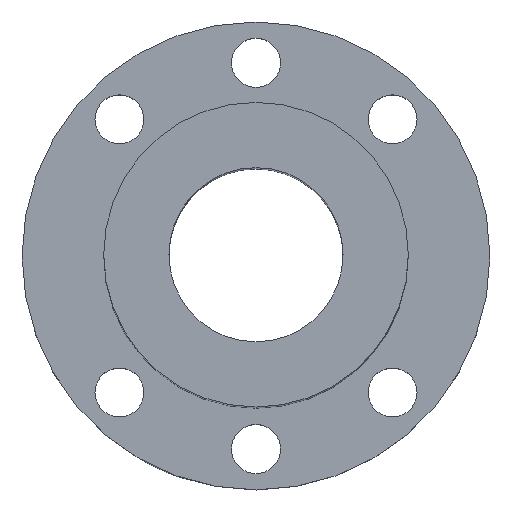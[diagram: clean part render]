
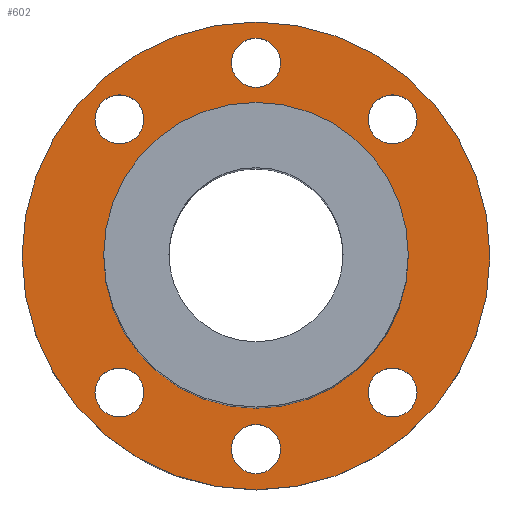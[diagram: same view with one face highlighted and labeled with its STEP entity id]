
A CAD part, top view. The second image highlights one B-rep face of the part: STEP entity #602.
In plain terms, the highlighted planar face has unit normal (0, 0, 1).
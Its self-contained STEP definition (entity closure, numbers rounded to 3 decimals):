
#101=CARTESIAN_POINT('',(0.,0.,14.));
#102=DIRECTION('',(0.,0.,1.));
#103=DIRECTION('',(1.,0.,0.));
#104=AXIS2_PLACEMENT_3D('',#101,#102,#103);
#106=CARTESIAN_POINT('',(0.,0.,14.));
#107=DIRECTION('',(0.,0.,1.));
#108=DIRECTION('',(-1.,0.,0.));
#109=AXIS2_PLACEMENT_3D('',#106,#107,#108);
#111=CARTESIAN_POINT('',(-25.102,-25.102,14.));
#112=DIRECTION('',(0.,0.,-1.));
#113=DIRECTION('',(1.,0.,0.));
#114=AXIS2_PLACEMENT_3D('',#111,#112,#113);
#116=CARTESIAN_POINT('',(-25.102,-25.102,14.));
#117=DIRECTION('',(0.,0.,-1.));
#118=DIRECTION('',(-1.,0.,0.));
#119=AXIS2_PLACEMENT_3D('',#116,#117,#118);
#121=CARTESIAN_POINT('',(0.,0.,14.));
#122=DIRECTION('',(0.,0.,-1.));
#123=DIRECTION('',(1.,0.,0.));
#124=AXIS2_PLACEMENT_3D('',#121,#122,#123);
#126=CARTESIAN_POINT('',(0.,0.,14.));
#127=DIRECTION('',(0.,0.,-1.));
#128=DIRECTION('',(-1.,0.,0.));
#129=AXIS2_PLACEMENT_3D('',#126,#127,#128);
#131=CARTESIAN_POINT('',(0.,35.5,14.));
#132=DIRECTION('',(0.,0.,-1.));
#133=DIRECTION('',(1.,0.,0.));
#134=AXIS2_PLACEMENT_3D('',#131,#132,#133);
#136=CARTESIAN_POINT('',(0.,35.5,14.));
#137=DIRECTION('',(0.,0.,-1.));
#138=DIRECTION('',(-1.,0.,0.));
#139=AXIS2_PLACEMENT_3D('',#136,#137,#138);
#141=CARTESIAN_POINT('',(-25.102,25.102,14.));
#142=DIRECTION('',(0.,0.,-1.));
#143=DIRECTION('',(1.,0.,0.));
#144=AXIS2_PLACEMENT_3D('',#141,#142,#143);
#146=CARTESIAN_POINT('',(-25.102,25.102,14.));
#147=DIRECTION('',(0.,0.,-1.));
#148=DIRECTION('',(-1.,0.,0.));
#149=AXIS2_PLACEMENT_3D('',#146,#147,#148);
#151=CARTESIAN_POINT('',(25.102,-25.102,14.));
#152=DIRECTION('',(0.,0.,-1.));
#153=DIRECTION('',(-1.,0.,0.));
#154=AXIS2_PLACEMENT_3D('',#151,#152,#153);
#156=CARTESIAN_POINT('',(25.102,-25.102,14.));
#157=DIRECTION('',(0.,0.,-1.));
#158=DIRECTION('',(1.,0.,0.));
#159=AXIS2_PLACEMENT_3D('',#156,#157,#158);
#161=CARTESIAN_POINT('',(25.102,25.102,14.));
#162=DIRECTION('',(0.,0.,-1.));
#163=DIRECTION('',(-1.,0.,0.));
#164=AXIS2_PLACEMENT_3D('',#161,#162,#163);
#166=CARTESIAN_POINT('',(25.102,25.102,14.));
#167=DIRECTION('',(0.,0.,-1.));
#168=DIRECTION('',(1.,0.,0.));
#169=AXIS2_PLACEMENT_3D('',#166,#167,#168);
#171=CARTESIAN_POINT('',(0.,-35.5,14.));
#172=DIRECTION('',(0.,0.,-1.));
#173=DIRECTION('',(1.,0.,0.));
#174=AXIS2_PLACEMENT_3D('',#171,#172,#173);
#176=CARTESIAN_POINT('',(0.,-35.5,14.));
#177=DIRECTION('',(0.,0.,-1.));
#178=DIRECTION('',(-1.,0.,0.));
#179=AXIS2_PLACEMENT_3D('',#176,#177,#178);
#347=CARTESIAN_POINT('',(43.,0.,14.));
#349=VERTEX_POINT('',#347);
#351=CARTESIAN_POINT('',(-43.,0.,14.));
#353=VERTEX_POINT('',#351);
#355=CARTESIAN_POINT('',(-28.,0.,14.));
#356=CARTESIAN_POINT('',(28.,0.,14.));
#357=VERTEX_POINT('',#355);
#358=VERTEX_POINT('',#356);
#363=CARTESIAN_POINT('',(29.602,25.102,14.));
#365=VERTEX_POINT('',#363);
#367=CARTESIAN_POINT('',(20.602,25.102,14.));
#369=VERTEX_POINT('',#367);
#371=CARTESIAN_POINT('',(29.602,-25.102,14.));
#373=VERTEX_POINT('',#371);
#375=CARTESIAN_POINT('',(20.602,-25.102,14.));
#377=VERTEX_POINT('',#375);
#379=CARTESIAN_POINT('',(-20.602,25.102,14.));
#381=VERTEX_POINT('',#379);
#383=CARTESIAN_POINT('',(-29.602,25.102,14.));
#385=VERTEX_POINT('',#383);
#387=CARTESIAN_POINT('',(4.5,35.5,14.));
#389=VERTEX_POINT('',#387);
#391=CARTESIAN_POINT('',(-4.5,35.5,14.));
#393=VERTEX_POINT('',#391);
#395=CARTESIAN_POINT('',(-20.602,-25.102,14.));
#397=VERTEX_POINT('',#395);
#399=CARTESIAN_POINT('',(-29.602,-25.102,14.));
#401=VERTEX_POINT('',#399);
#403=CARTESIAN_POINT('',(4.5,-35.5,14.));
#405=VERTEX_POINT('',#403);
#407=CARTESIAN_POINT('',(-4.5,-35.5,14.));
#409=VERTEX_POINT('',#407);
#551=CARTESIAN_POINT('',(-12.551,-12.551,14.));
#552=DIRECTION('',(0.,0.,1.));
#553=DIRECTION('',(1.,0.,0.));
#554=AXIS2_PLACEMENT_3D('',#551,#552,#553);
#555=PLANE('',#554);
#556=ORIENTED_EDGE('',*,*,#444,.F.);
#558=ORIENTED_EDGE('',*,*,#557,.F.);
#559=EDGE_LOOP('',(#556,#558));
#560=FACE_OUTER_BOUND('',#559,.F.);
#562=ORIENTED_EDGE('',*,*,#561,.F.);
#564=ORIENTED_EDGE('',*,*,#563,.F.);
#565=EDGE_LOOP('',(#562,#564));
#566=FACE_BOUND('',#565,.F.);
#568=ORIENTED_EDGE('',*,*,#567,.F.);
#569=ORIENTED_EDGE('',*,*,#541,.F.);
#570=EDGE_LOOP('',(#568,#569));
#571=FACE_BOUND('',#570,.F.);
#573=ORIENTED_EDGE('',*,*,#572,.F.);
#575=ORIENTED_EDGE('',*,*,#574,.F.);
#576=EDGE_LOOP('',(#573,#575));
#577=FACE_BOUND('',#576,.F.);
#579=ORIENTED_EDGE('',*,*,#578,.F.);
#581=ORIENTED_EDGE('',*,*,#580,.F.);
#582=EDGE_LOOP('',(#579,#581));
#583=FACE_BOUND('',#582,.F.);
#585=ORIENTED_EDGE('',*,*,#584,.F.);
#587=ORIENTED_EDGE('',*,*,#586,.F.);
#588=EDGE_LOOP('',(#585,#587));
#589=FACE_BOUND('',#588,.F.);
#591=ORIENTED_EDGE('',*,*,#590,.F.);
#593=ORIENTED_EDGE('',*,*,#592,.F.);
#594=EDGE_LOOP('',(#591,#593));
#595=FACE_BOUND('',#594,.F.);
#597=ORIENTED_EDGE('',*,*,#596,.F.);
#599=ORIENTED_EDGE('',*,*,#598,.F.);
#600=EDGE_LOOP('',(#597,#599));
#601=FACE_BOUND('',#600,.F.);
#602=ADVANCED_FACE('',(#560,#566,#571,#577,#583,#589,#595,#601),#555,.T.);
#105=CIRCLE('',#104,43.);
#110=CIRCLE('',#109,43.);
#115=CIRCLE('',#114,4.5);
#120=CIRCLE('',#119,4.5);
#125=CIRCLE('',#124,28.);
#130=CIRCLE('',#129,28.);
#135=CIRCLE('',#134,4.5);
#140=CIRCLE('',#139,4.5);
#145=CIRCLE('',#144,4.5);
#150=CIRCLE('',#149,4.5);
#155=CIRCLE('',#154,4.5);
#160=CIRCLE('',#159,4.5);
#165=CIRCLE('',#164,4.5);
#170=CIRCLE('',#169,4.5);
#175=CIRCLE('',#174,4.5);
#180=CIRCLE('',#179,4.5);
#444=EDGE_CURVE('',#349,#353,#105,.T.);
#541=EDGE_CURVE('',#357,#358,#130,.T.);
#557=EDGE_CURVE('',#353,#349,#110,.T.);
#561=EDGE_CURVE('',#397,#401,#115,.T.);
#563=EDGE_CURVE('',#401,#397,#120,.T.);
#567=EDGE_CURVE('',#358,#357,#125,.T.);
#572=EDGE_CURVE('',#389,#393,#135,.T.);
#574=EDGE_CURVE('',#393,#389,#140,.T.);
#578=EDGE_CURVE('',#381,#385,#145,.T.);
#580=EDGE_CURVE('',#385,#381,#150,.T.);
#584=EDGE_CURVE('',#377,#373,#155,.T.);
#586=EDGE_CURVE('',#373,#377,#160,.T.);
#590=EDGE_CURVE('',#369,#365,#165,.T.);
#592=EDGE_CURVE('',#365,#369,#170,.T.);
#596=EDGE_CURVE('',#405,#409,#175,.T.);
#598=EDGE_CURVE('',#409,#405,#180,.T.);
